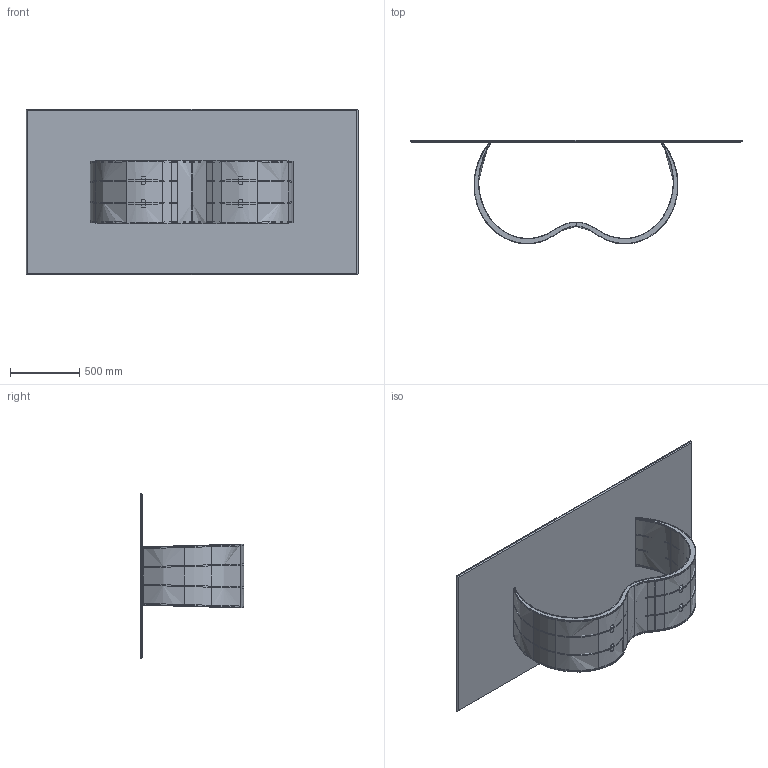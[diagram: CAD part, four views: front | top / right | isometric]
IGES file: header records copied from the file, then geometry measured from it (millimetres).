
Start section: SolidWorks IGES file using analytic representation for surfaces
Global section: file name: Y:\eforma\TECNICO\SOLIDWORKS\E-FORMA\1-TAVOLI\ALISEI 240-300\02 parts\AI22C_Alisei_239x119_Ceramic Rectangular.IGS; native system: SolidWorks 2022; preprocessor: SolidWorks 2022; author: eforma.tech; date: 240801.145002; units: millimetre
Bounding box: 2390 x 747 x 1190 mm (x, y, z)
Volume: 52490177 mm3; surface area: 16962514.3 mm2
Topology: 18 solids, 18 shells, 1052 faces, 2912 edges, 1888 vertices
Faces by surface type: bspline 552, plane 336, revolution 164
